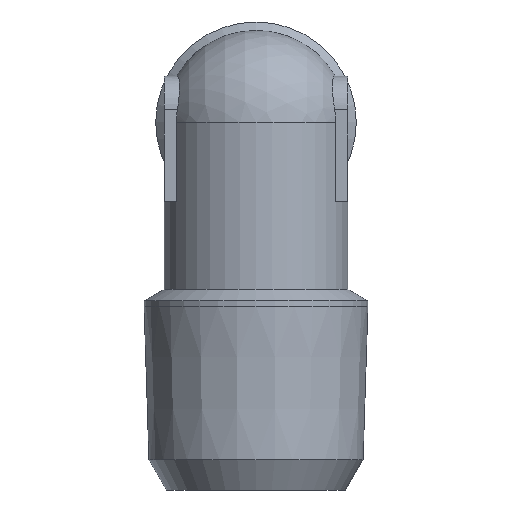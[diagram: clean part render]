
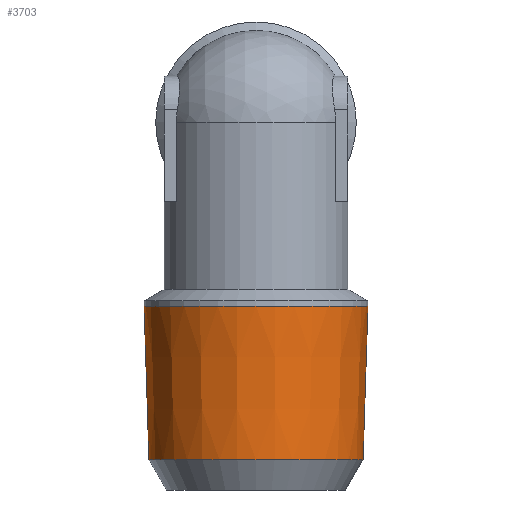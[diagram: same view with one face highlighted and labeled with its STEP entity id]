
A CAD part, left-side view. The second image highlights one B-rep face of the part: STEP entity #3703.
In plain terms, the highlighted conical face has half-angle 1.79 degrees and reference radius 6.694 mm.
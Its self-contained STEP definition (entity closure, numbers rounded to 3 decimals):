
#1623=ORIENTED_EDGE('',*,*,#1970,.F.);
#1624=ORIENTED_EDGE('',*,*,#1971,.T.);
#1791=CIRCLE('',#3582,6.407);
#1792=CIRCLE('',#3584,6.694);
#1862=VERTEX_POINT('',#3209);
#1863=VERTEX_POINT('',#3212);
#1970=EDGE_CURVE('',#1862,#1862,#1791,.T.);
#1971=EDGE_CURVE('',#1863,#1863,#1792,.T.);
#2091=EDGE_LOOP('',(#1623));
#2092=EDGE_LOOP('',(#1624));
#2191=FACE_BOUND('',#2091,.T.);
#2192=FACE_BOUND('',#2092,.T.);
#2408=DIRECTION('',(0.,-1.,0.));
#2409=DIRECTION('',(0.,0.,6.407));
#2410=DIRECTION('',(0.,1.,0.));
#2411=DIRECTION('',(0.,0.,1.));
#2412=DIRECTION('',(0.,-1.,0.));
#2413=DIRECTION('',(0.,0.,6.694));
#3209=CARTESIAN_POINT('',(27.861,13.865,6.407));
#3210=CARTESIAN_POINT('',(27.861,13.865,0.));
#3211=CARTESIAN_POINT('',(27.861,23.065,0.));
#3212=CARTESIAN_POINT('',(27.861,23.065,-6.694));
#3213=CARTESIAN_POINT('',(27.861,23.065,0.));
#3582=AXIS2_PLACEMENT_3D('',#3210,#2408,#2409);
#3583=AXIS2_PLACEMENT_3D('',#3211,#2410,#2411);
#3584=AXIS2_PLACEMENT_3D('',#3213,#2412,#2413);
#3665=CONICAL_SURFACE('',#3583,6.694,1.79);
#3703=ADVANCED_FACE('',(#2191,#2192),#3665,.T.);
